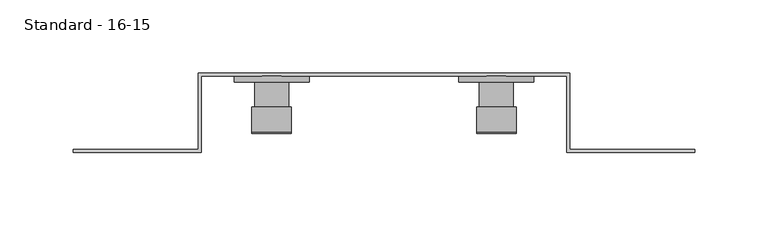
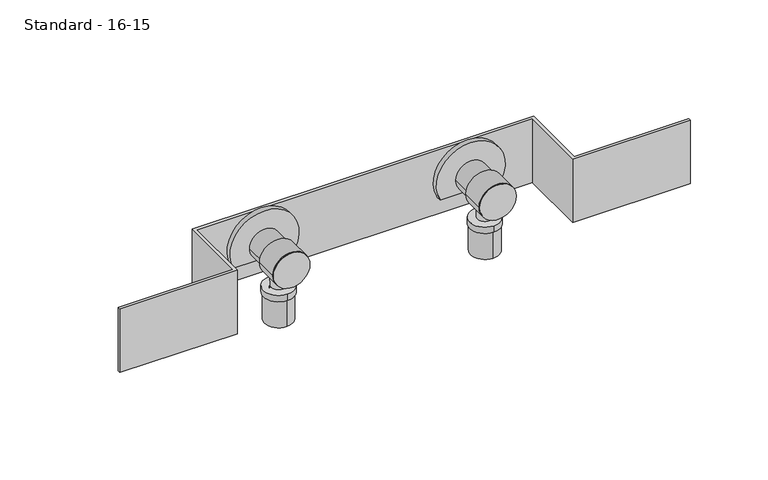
"""IFC4 building model written with IfcOpenShell, lengths in millimetres: pipe fitting geometry, PIF_Tigris_Holder_Plate_Bath_Shower_FMT_Wavin_(multiport) : Standard - 16-15."""

from ifc_helpers import new_model, si_unit, point, frame, frame_2d, origin, place, context, project, spatial, polyline, circle_curve, trimmed, segment, composite_curve, outline, extrude, source, transform, mapped, element, save


def standard_16_15_36090b3b(model_context):
    return source(origin(), model_context, "Body", "SweptSolid", [
        extrude(outline(composite_curve([segment(trimmed(circle_curve(frame_2d((0.0, 76.5)), 25.5), [point((-11.5, 99.2596134))], [point((-11.5, 53.7403866))], False, "CARTESIAN"), True, "CONTINUOUS"), segment(polyline([(-11.5, 53.7403866), (-11.5, 99.2596134)]), True, "CONTINUOUS")], self_intersect=False)), frame((0.0, -4.0, 0.0), z_axis=(0.0, 1.0, 0.0), x_axis=(0.0, 0.0, 1.0)), (0.0, 0.0, 1.0), 4.0),
        extrude(outline(composite_curve([segment(trimmed(circle_curve(frame_2d((0.0, 76.5)), 11.5), [point((0.0, 88.0))], [point((0.0, 65.0))], False, "CARTESIAN"), True, "CONTINUOUS"), segment(trimmed(circle_curve(frame_2d((0.0, 76.5)), 11.5), [point((0.0, 65.0))], [point((0.0, 88.0))], False, "CARTESIAN"), True, "CONTINUOUS")], self_intersect=False)), frame((0.0, -28.0, 0.0), z_axis=(0.0, 1.0, 0.0), x_axis=(0.0, 0.0, 1.0)), (0.0, 0.0, 1.0), 28.0),
        extrude(outline(composite_curve([segment(trimmed(circle_curve(frame_2d((0.0, 76.5)), 13.5), [point((0.0, 63.0))], [point((0.0, 90.0))], False, "CARTESIAN"), True, "CONTINUOUS"), segment(trimmed(circle_curve(frame_2d((0.0, 76.5)), 13.5), [point((0.0, 90.0))], [point((0.0, 63.0))], False, "CARTESIAN"), True, "CONTINUOUS")], self_intersect=False)), frame((0.0, -38.0, 0.0), z_axis=(0.0, 1.0, 0.0), x_axis=(0.0, 0.0, 1.0)), (0.0, 0.0, 1.0), 17.0),
        extrude(outline(composite_curve([segment(trimmed(circle_curve(frame_2d((0.0, 76.5)), 13.5), [point((0.0, 63.0))], [point((0.0, 90.0))], False, "CARTESIAN"), True, "CONTINUOUS"), segment(trimmed(circle_curve(frame_2d((0.0, 76.5)), 13.5), [point((0.0, 90.0))], [point((0.0, 63.0))], False, "CARTESIAN"), True, "CONTINUOUS")], self_intersect=False)), frame((0.0, -39.0, 0.0), z_axis=(0.0, 1.0, 0.0), x_axis=(0.0, 0.0, 1.0)), (0.0, 0.0, 1.0), 1.0),
        extrude(outline(composite_curve([segment(trimmed(circle_curve(frame_2d((76.5, -22.0)), 11.35), [point((76.5, -10.65))], [point((76.5, -33.35))], False, "CARTESIAN"), True, "CONTINUOUS"), segment(trimmed(circle_curve(frame_2d((76.5, -22.0)), 11.35), [point((76.5, -33.35))], [point((76.5, -10.65))], False, "CARTESIAN"), True, "CONTINUOUS")], self_intersect=False)), frame((0.0, 0.0, -27.0), z_axis=(0.0, 0.0, 1.0), x_axis=(1.0, 0.0, 0.0)), (0.0, 0.0, 1.0), 5.0),
        extrude(outline(composite_curve([segment(trimmed(circle_curve(frame_2d((76.5, -22.0)), 10.5), [point((76.5, -11.5))], [point((76.5, -32.5))], False, "CARTESIAN"), True, "CONTINUOUS"), segment(trimmed(circle_curve(frame_2d((76.5, -22.0)), 10.5), [point((76.5, -32.5))], [point((76.5, -11.5))], False, "CARTESIAN"), True, "CONTINUOUS")], self_intersect=False), holes=[composite_curve([segment(trimmed(circle_curve(frame_2d((76.5, -22.0)), 8.2), [point((76.5, -13.8))], [point((76.5, -30.2))], True, "CARTESIAN"), True, "CONTINUOUS"), segment(trimmed(circle_curve(frame_2d((76.5, -22.0)), 8.2), [point((76.5, -30.2))], [point((76.5, -13.8))], True, "CARTESIAN"), True, "CONTINUOUS")], self_intersect=False)]), frame((0.0, 0.0, -48.0), z_axis=(0.0, 0.0, 1.0), x_axis=(1.0, 0.0, 0.0)), (0.0, 0.0, 1.0), 21.0),
        extrude(outline(composite_curve([segment(trimmed(circle_curve(frame_2d((76.5, -22.0)), 6.1), [point((76.5, -15.9))], [point((76.5, -28.1))], False, "CARTESIAN"), True, "CONTINUOUS"), segment(trimmed(circle_curve(frame_2d((76.5, -22.0)), 6.1), [point((76.5, -28.1))], [point((76.5, -15.9))], False, "CARTESIAN"), True, "CONTINUOUS")], self_intersect=False), holes=[composite_curve([segment(trimmed(circle_curve(frame_2d((76.5, -22.0)), 4.0), [point((76.5, -18.0))], [point((76.5, -26.0))], True, "CARTESIAN"), True, "CONTINUOUS"), segment(trimmed(circle_curve(frame_2d((76.5, -22.0)), 4.0), [point((76.5, -26.0))], [point((76.5, -18.0))], True, "CARTESIAN"), True, "CONTINUOUS")], self_intersect=False)]), frame((0.0, 0.0, -48.0), z_axis=(0.0, 0.0, 1.0), x_axis=(1.0, 0.0, 0.0)), (0.0, 0.0, 1.0), 25.0),
        extrude(outline(composite_curve([segment(trimmed(circle_curve(frame_2d((0.0, 76.5)), 5.5), [point((5.5, 76.5))], [point((-5.5, 76.5))], False, "CARTESIAN"), True, "CONTINUOUS"), segment(trimmed(circle_curve(frame_2d((0.0, 76.5)), 5.5), [point((-5.5, 76.5))], [point((5.5, 76.5))], False, "CARTESIAN"), True, "CONTINUOUS")], self_intersect=False)), frame((0.0, -28.0, 0.0), z_axis=(0.0, 1.0, 0.0), x_axis=(0.0, 0.0, 1.0)), (0.0, 0.0, 1.0), 6.0),
        extrude(outline(composite_curve([segment(trimmed(circle_curve(frame_2d((76.5, -22.0)), 5.5), [point((76.5, -16.5))], [point((76.5, -27.5))], False, "CARTESIAN"), True, "CONTINUOUS"), segment(trimmed(circle_curve(frame_2d((76.5, -22.0)), 5.5), [point((76.5, -27.5))], [point((76.5, -16.5))], False, "CARTESIAN"), True, "CONTINUOUS")], self_intersect=False)), frame((0.0, 0.0, -23.0), z_axis=(0.0, 0.0, 1.0), x_axis=(1.0, 0.0, 0.0)), (0.0, 0.0, 1.0), 23.0),
        extrude(outline(composite_curve([segment(trimmed(circle_curve(frame_2d((0.0, -76.5)), 25.5), [point((-11.5, -53.7403866))], [point((-11.5, -99.2596134))], False, "CARTESIAN"), True, "CONTINUOUS"), segment(polyline([(-11.5, -99.2596134), (-11.5, -53.7403866)]), True, "CONTINUOUS")], self_intersect=False)), frame((0.0, -4.0, 0.0), z_axis=(0.0, 1.0, 0.0), x_axis=(0.0, 0.0, 1.0)), (0.0, 0.0, 1.0), 4.0),
        extrude(outline(composite_curve([segment(trimmed(circle_curve(frame_2d((0.0, -76.5)), 11.5), [point((0.0, -65.0))], [point((0.0, -88.0))], False, "CARTESIAN"), True, "CONTINUOUS"), segment(trimmed(circle_curve(frame_2d((0.0, -76.5)), 11.5), [point((0.0, -88.0))], [point((0.0, -65.0))], False, "CARTESIAN"), True, "CONTINUOUS")], self_intersect=False)), frame((0.0, -28.0, 0.0), z_axis=(0.0, 1.0, 0.0), x_axis=(0.0, 0.0, 1.0)), (0.0, 0.0, 1.0), 28.0),
        extrude(outline(composite_curve([segment(trimmed(circle_curve(frame_2d((0.0, -76.5)), 13.5), [point((0.0, -90.0))], [point((0.0, -63.0))], False, "CARTESIAN"), True, "CONTINUOUS"), segment(trimmed(circle_curve(frame_2d((0.0, -76.5)), 13.5), [point((0.0, -63.0))], [point((0.0, -90.0))], False, "CARTESIAN"), True, "CONTINUOUS")], self_intersect=False)), frame((0.0, -38.0, 0.0), z_axis=(0.0, 1.0, 0.0), x_axis=(0.0, 0.0, 1.0)), (0.0, 0.0, 1.0), 17.0),
        extrude(outline(composite_curve([segment(trimmed(circle_curve(frame_2d((0.0, -76.5)), 13.5), [point((0.0, -90.0))], [point((0.0, -63.0))], False, "CARTESIAN"), True, "CONTINUOUS"), segment(trimmed(circle_curve(frame_2d((0.0, -76.5)), 13.5), [point((0.0, -63.0))], [point((0.0, -90.0))], False, "CARTESIAN"), True, "CONTINUOUS")], self_intersect=False)), frame((0.0, -39.0, 0.0), z_axis=(0.0, 1.0, 0.0), x_axis=(0.0, 0.0, 1.0)), (0.0, 0.0, 1.0), 1.0),
        extrude(outline(composite_curve([segment(trimmed(circle_curve(frame_2d((-76.5, -22.0)), 11.35), [point((-76.5, -10.65))], [point((-76.5, -33.35))], False, "CARTESIAN"), True, "CONTINUOUS"), segment(trimmed(circle_curve(frame_2d((-76.5, -22.0)), 11.35), [point((-76.5, -33.35))], [point((-76.5, -10.65))], False, "CARTESIAN"), True, "CONTINUOUS")], self_intersect=False)), frame((0.0, 0.0, -27.0), z_axis=(0.0, 0.0, 1.0), x_axis=(1.0, 0.0, 0.0)), (0.0, 0.0, 1.0), 5.0),
        extrude(outline(composite_curve([segment(trimmed(circle_curve(frame_2d((-76.5, -22.0)), 10.5), [point((-76.5, -11.5))], [point((-76.5, -32.5))], False, "CARTESIAN"), True, "CONTINUOUS"), segment(trimmed(circle_curve(frame_2d((-76.5, -22.0)), 10.5), [point((-76.5, -32.5))], [point((-76.5, -11.5))], False, "CARTESIAN"), True, "CONTINUOUS")], self_intersect=False), holes=[composite_curve([segment(trimmed(circle_curve(frame_2d((-76.5, -22.0)), 8.2), [point((-76.5, -13.8))], [point((-76.5, -30.2))], True, "CARTESIAN"), True, "CONTINUOUS"), segment(trimmed(circle_curve(frame_2d((-76.5, -22.0)), 8.2), [point((-76.5, -30.2))], [point((-76.5, -13.8))], True, "CARTESIAN"), True, "CONTINUOUS")], self_intersect=False)]), frame((0.0, 0.0, -48.0), z_axis=(0.0, 0.0, 1.0), x_axis=(1.0, 0.0, 0.0)), (0.0, 0.0, 1.0), 21.0),
        extrude(outline(composite_curve([segment(trimmed(circle_curve(frame_2d((-76.5, -22.0)), 6.1), [point((-76.5, -15.9))], [point((-76.5, -28.1))], False, "CARTESIAN"), True, "CONTINUOUS"), segment(trimmed(circle_curve(frame_2d((-76.5, -22.0)), 6.1), [point((-76.5, -28.1))], [point((-76.5, -15.9))], False, "CARTESIAN"), True, "CONTINUOUS")], self_intersect=False), holes=[composite_curve([segment(trimmed(circle_curve(frame_2d((-76.5, -22.0)), 4.0), [point((-76.5, -18.0))], [point((-76.5, -26.0))], True, "CARTESIAN"), True, "CONTINUOUS"), segment(trimmed(circle_curve(frame_2d((-76.5, -22.0)), 4.0), [point((-76.5, -26.0))], [point((-76.5, -18.0))], True, "CARTESIAN"), True, "CONTINUOUS")], self_intersect=False)]), frame((0.0, 0.0, -48.0), z_axis=(0.0, 0.0, 1.0), x_axis=(1.0, 0.0, 0.0)), (0.0, 0.0, 1.0), 25.0),
        extrude(outline(composite_curve([segment(trimmed(circle_curve(frame_2d((0.0, -76.5)), 5.5), [point((5.5, -76.5))], [point((-5.5, -76.5))], False, "CARTESIAN"), True, "CONTINUOUS"), segment(trimmed(circle_curve(frame_2d((0.0, -76.5)), 5.5), [point((-5.5, -76.5))], [point((5.5, -76.5))], False, "CARTESIAN"), True, "CONTINUOUS")], self_intersect=False)), frame((0.0, -28.0, 0.0), z_axis=(0.0, 1.0, 0.0), x_axis=(0.0, 0.0, 1.0)), (0.0, 0.0, 1.0), 6.0),
        extrude(outline(composite_curve([segment(trimmed(circle_curve(frame_2d((-76.5, -22.0)), 5.5), [point((-76.5, -16.5))], [point((-76.5, -27.5))], False, "CARTESIAN"), True, "CONTINUOUS"), segment(trimmed(circle_curve(frame_2d((-76.5, -22.0)), 5.5), [point((-76.5, -27.5))], [point((-76.5, -16.5))], False, "CARTESIAN"), True, "CONTINUOUS")], self_intersect=False)), frame((0.0, 0.0, -23.0), z_axis=(0.0, 0.0, 1.0), x_axis=(1.0, 0.0, 0.0)), (0.0, 0.0, 1.0), 23.0),
        extrude(outline(polyline([(-124.5, -52.0), (-211.5, -52.0), (-211.5, -50.0), (-126.5, -50.0), (-126.5, 2.0), (126.5, 2.0), (126.5, -50.0), (211.5, -50.0), (211.5, -52.0), (124.5, -52.0), (124.5, 0.0), (-124.5, 0.0), (-124.5, -52.0)])), frame((0.0, 0.0, -25.0), z_axis=(0.0, 0.0, 1.0), x_axis=(1.0, 0.0, 0.0)), (0.0, 0.0, 1.0), 50.0),
    ])


if __name__ == "__main__":
    model = new_model("IFC4")
    model_context = context("Model", 3, world=origin())
    ifc_project = project(units=[si_unit("LENGTHUNIT", "METRE", prefix="MILLI")], contexts=[model_context])
    site = spatial("IfcSite", under=ifc_project)
    building = spatial("IfcBuilding", under=site)
    placement = place(None, origin())
    standard_16_15_shape = standard_16_15_36090b3b(model_context)
    element("IfcPipeFitting", 1, ObjectType="PIF_Tigris_Holder_Plate_Bath_Shower_FMT_Wavin_(multiport) : Standard - 16-15", at=placement, inside=building, context=model_context, shape_type="MappedRepresentation", body=[
        mapped(standard_16_15_shape, transform((0.0, 0.0, 0.0), x_axis=(1.0, 0.0, 0.0), y_axis=(0.0, 1.0, 0.0), z_axis=(0.0, 0.0, 1.0))),
    ])
    save(model, "model.ifc")
